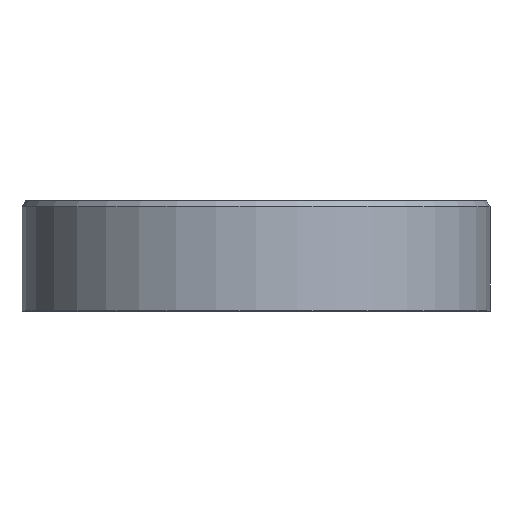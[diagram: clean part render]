
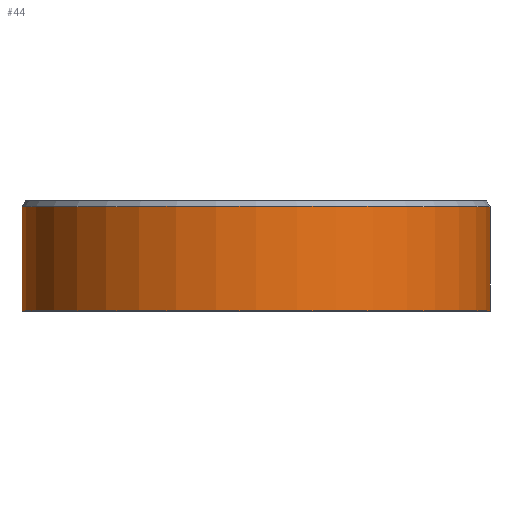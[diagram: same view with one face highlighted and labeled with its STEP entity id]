
A CAD part, top view. The second image highlights one B-rep face of the part: STEP entity #44.
In plain terms, the highlighted cylindrical face has radius 755.65 mm (diameter 1511.3 mm), a partial arc.
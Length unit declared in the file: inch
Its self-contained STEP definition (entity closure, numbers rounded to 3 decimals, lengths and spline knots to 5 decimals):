
#7 = EDGE_CURVE ( 'NONE', #15, #126, #230, .T. ) ;
#9 = CARTESIAN_POINT ( 'NONE',  ( 120., 57.25, 0. ) ) ;
#15 = VERTEX_POINT ( 'NONE', #36 ) ;
#22 = DIRECTION ( 'NONE',  ( 0., -1., 0. ) ) ;
#29 = ORIENTED_EDGE ( 'NONE', *, *, #7, .F. ) ;
#36 = CARTESIAN_POINT ( 'NONE',  ( 149.75, 44., 0. ) ) ;
#39 = CARTESIAN_POINT ( 'NONE',  ( 120., 44., 0. ) ) ;
#44 = ADVANCED_FACE ( 'NONE', ( #224 ), #133, .T. ) ;
#45 = DIRECTION ( 'NONE',  ( 0., 1., 0. ) ) ;
#60 = DIRECTION ( 'NONE',  ( 0., -1., 0. ) ) ;
#66 = CIRCLE ( 'NONE', #208, 29.75 ) ;
#68 = LINE ( 'NONE', #70, #202 ) ;
#70 = CARTESIAN_POINT ( 'NONE',  ( 149.74972, 44., -0.12823 ) ) ;
#71 = AXIS2_PLACEMENT_3D ( 'NONE', #39, #60, #186 ) ;
#80 = EDGE_CURVE ( 'NONE', #177, #146, #66, .T. ) ;
#87 = LINE ( 'NONE', #156, #111 ) ;
#90 = ORIENTED_EDGE ( 'NONE', *, *, #155, .T. ) ;
#96 = DIRECTION ( 'NONE',  ( 0., 0., 1. ) ) ;
#97 = CARTESIAN_POINT ( 'NONE',  ( 120., 44., 0. ) ) ;
#111 = VECTOR ( 'NONE', #45, 39.37008 ) ;
#120 = CARTESIAN_POINT ( 'NONE',  ( 149.74972, 44., -0.12823 ) ) ;
#126 = VERTEX_POINT ( 'NONE', #120 ) ;
#133 = CYLINDRICAL_SURFACE ( 'NONE', #139, 29.75 ) ;
#135 = DIRECTION ( 'NONE',  ( 0., -1., 0. ) ) ;
#139 = AXIS2_PLACEMENT_3D ( 'NONE', #97, #22, #210 ) ;
#146 = VERTEX_POINT ( 'NONE', #187 ) ;
#155 = EDGE_CURVE ( 'NONE', #15, #177, #87, .T. ) ;
#156 = CARTESIAN_POINT ( 'NONE',  ( 149.75, 44., 0. ) ) ;
#157 = EDGE_CURVE ( 'NONE', #126, #146, #68, .T. ) ;
#169 = CARTESIAN_POINT ( 'NONE',  ( 149.75, 57.25, 0. ) ) ;
#177 = VERTEX_POINT ( 'NONE', #169 ) ;
#185 = ORIENTED_EDGE ( 'NONE', *, *, #80, .T. ) ;
#186 = DIRECTION ( 'NONE',  ( 0., 0., -1. ) ) ;
#187 = CARTESIAN_POINT ( 'NONE',  ( 149.74972, 57.25, -0.12823 ) ) ;
#193 = DIRECTION ( 'NONE',  ( 0., 1., 0. ) ) ;
#197 = ORIENTED_EDGE ( 'NONE', *, *, #157, .F. ) ;
#202 = VECTOR ( 'NONE', #193, 39.37008 ) ;
#208 = AXIS2_PLACEMENT_3D ( 'NONE', #9, #135, #96 ) ;
#210 = DIRECTION ( 'NONE',  ( 0., 0., -1. ) ) ;
#224 = FACE_OUTER_BOUND ( 'NONE', #231, .T. ) ;
#230 = CIRCLE ( 'NONE', #71, 29.75 ) ;
#231 = EDGE_LOOP ( 'NONE', ( #90, #185, #197, #29 ) ) ;
